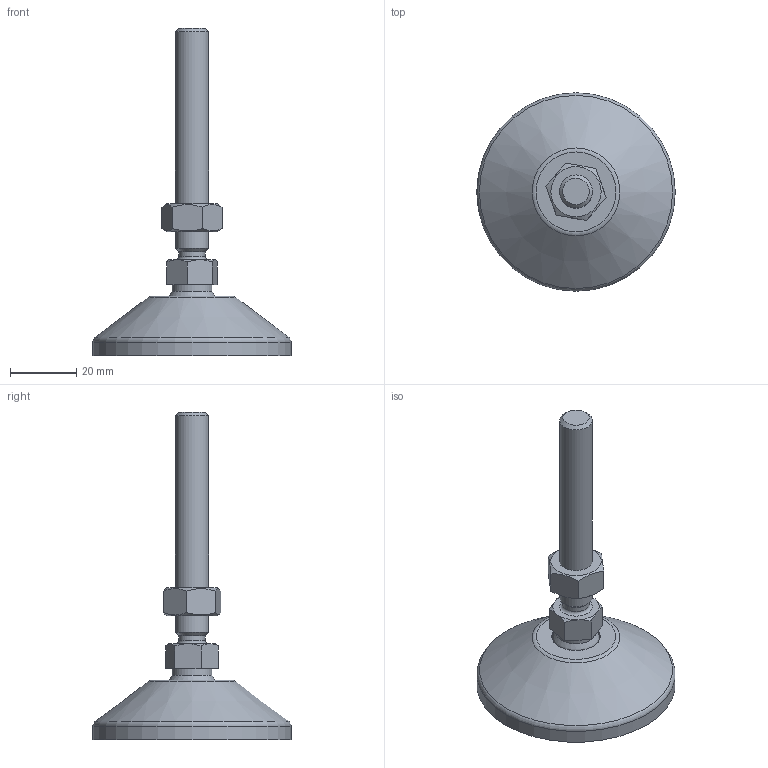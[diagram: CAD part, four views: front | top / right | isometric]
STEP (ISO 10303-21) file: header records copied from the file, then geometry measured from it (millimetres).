
FILE_DESCRIPTION(('STEP AP203'), '1');
FILE_NAME('栖闉罻', '', ('UNSPECIFIED'), ('UNSPECIFIED'), 'C3D Converter', 'C3D Toolkit', '');
FILE_SCHEMA(('CONFIG_CONTROL_DESIGN'));
Length unit declared in the file: millimetre
Products named in the file (4): A00020.110070; A00015.1060
Assembly tree (3 placements, depth 3):
  (unnamed)
    A00020.110070
      (unnamed)
    A00015.1060
Bounding box: 60 x 60 x 99 mm (x, y, z)
Volume: 29628.5 mm3; surface area: 14204.6 mm2
Topology: 3 solids, 3 shells, 158 faces, 415 edges, 275 vertices
Faces by surface type: plane 86, cylinder 34, torus 21, cone 15, sphere 2
Full cylindrical faces by diameter (mm): 4 x8, 8 x1, 8.376 x1, 10 x1, 12 x1, 14.3 x1, 15 x2, 15.5 x1, 50.5 x1, 60 x1
Entity records: 8229 total; most frequent: CARTESIAN_POINT 2984, DIRECTION 790, ORIENTED_EDGE 760, EDGE_CURVE 380, AXIS2_PLACEMENT_3D 322, VERTEX_POINT 274, EDGE_LOOP 206, FACE_BOUND 166
